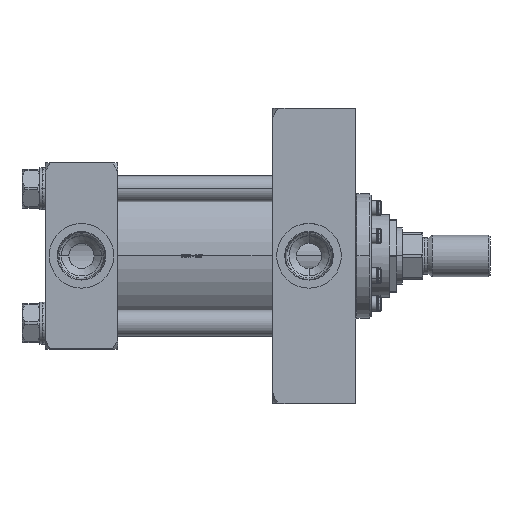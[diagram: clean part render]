
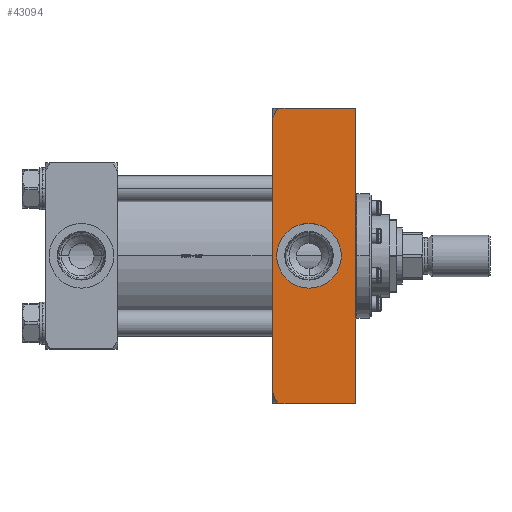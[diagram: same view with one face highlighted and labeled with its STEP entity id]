
A CAD part, top view. The second image highlights one B-rep face of the part: STEP entity #43094.
In plain terms, the highlighted planar face has unit normal (0, 0, 1).
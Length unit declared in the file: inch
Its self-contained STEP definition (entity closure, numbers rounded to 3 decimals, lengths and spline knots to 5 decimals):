
#494 = EDGE_CURVE ( 'NONE', #1169, #6322, #24293, .T. ) ;
#553 = CIRCLE ( 'NONE', #8664, 0.7815 ) ;
#1020 = CARTESIAN_POINT ( 'NONE',  ( -3.625, -3.5625, 2.25 ) ) ;
#1169 = VERTEX_POINT ( 'NONE', #26194 ) ;
#1170 = VERTEX_POINT ( 'NONE', #13774 ) ;
#2710 = CARTESIAN_POINT ( 'NONE',  ( -3.625, -3.5625, 2.25 ) ) ;
#3117 = CARTESIAN_POINT ( 'NONE',  ( -3.62025, 3.31781, 2.25 ) ) ;
#4360 = CARTESIAN_POINT ( 'NONE',  ( -3.51644, 3.54029, 2.25 ) ) ;
#6251 = DIRECTION ( 'NONE',  ( 0., 0., -1. ) ) ;
#6322 = VERTEX_POINT ( 'NONE', #69412 ) ;
#6425 = CARTESIAN_POINT ( 'NONE',  ( -3.59673, -3.39629, 2.25 ) ) ;
#7169 = ORIENTED_EDGE ( 'NONE', *, *, #46690, .T. ) ;
#8664 = AXIS2_PLACEMENT_3D ( 'NONE', #35420, #29071, #57047 ) ;
#9218 = EDGE_LOOP ( 'NONE', ( #83928, #11410, #7169, #38554, #34467, #74466 ) ) ;
#9708 = LINE ( 'NONE', #15285, #66021 ) ;
#9853 = CIRCLE ( 'NONE', #63001, 0.7815 ) ;
#9885 = CARTESIAN_POINT ( 'NONE',  ( -3.62403, 3.2902, 2.25 ) ) ;
#9937 = EDGE_CURVE ( 'NONE', #1170, #60429, #11780, .T. ) ;
#10724 = CARTESIAN_POINT ( 'NONE',  ( -3.53159, 3.51767, 2.25 ) ) ;
#11410 = ORIENTED_EDGE ( 'NONE', *, *, #494, .T. ) ;
#11780 = B_SPLINE_CURVE_WITH_KNOTS ( 'NONE', 3,
 ( #41914, #67930, #9885, #3117, #29935, #55083, #35875, #62762, #81896, #10724, #4360, #58024 ),
 .UNSPECIFIED., .F., .F.,
 ( 4, 2, 2, 2, 2, 4 ),
 ( 0.00462, 0.00565, 0.00669, 0.00876, 0.01083, 0.01291 ),
 .UNSPECIFIED. ) ;
#13774 = CARTESIAN_POINT ( 'NONE',  ( -3.625, 3.2625, 2.25 ) ) ;
#14031 = CARTESIAN_POINT ( 'NONE',  ( -3.53188, -3.51724, 2.25 ) ) ;
#14871 = CARTESIAN_POINT ( 'NONE',  ( -1.625, 3.5625, 2.25 ) ) ;
#15285 = CARTESIAN_POINT ( 'NONE',  ( -3.625, 3.5625, 2.25 ) ) ;
#15355 = EDGE_CURVE ( 'NONE', #1169, #41812, #70307, .T. ) ;
#16766 = VERTEX_POINT ( 'NONE', #39262 ) ;
#19338 = PLANE ( 'NONE',  #48777 ) ;
#20028 = CARTESIAN_POINT ( 'NONE',  ( -3.51658, -3.5401, 2.25 ) ) ;
#20991 = LINE ( 'NONE', #2710, #57387 ) ;
#22937 = DIRECTION ( 'NONE',  ( 1., 0., 0. ) ) ;
#23437 = DIRECTION ( 'NONE',  ( 0., 1., 0. ) ) ;
#24293 = LINE ( 'NONE', #77151, #49441 ) ;
#25553 = EDGE_CURVE ( 'NONE', #60429, #50294, #9708, .T. ) ;
#26194 = CARTESIAN_POINT ( 'NONE',  ( -3.50074, -3.5625, 2.25 ) ) ;
#26614 = FACE_BOUND ( 'NONE', #67972, .T. ) ;
#27277 = CARTESIAN_POINT ( 'NONE',  ( -3.50074, -3.5625, 2.25 ) ) ;
#29071 = DIRECTION ( 'NONE',  ( 0., 0., -1. ) ) ;
#29515 = ORIENTED_EDGE ( 'NONE', *, *, #79019, .T. ) ;
#29935 = CARTESIAN_POINT ( 'NONE',  ( -3.61747, 3.33134, 2.25 ) ) ;
#31364 = CARTESIAN_POINT ( 'NONE',  ( -2.75, 0., 2.25 ) ) ;
#32219 = CARTESIAN_POINT ( 'NONE',  ( -1.625, -3.5625, 2.25 ) ) ;
#32794 = CARTESIAN_POINT ( 'NONE',  ( -3.61063, -3.35735, 2.25 ) ) ;
#33371 = DIRECTION ( 'NONE',  ( 0., 1., 0. ) ) ;
#33598 = VERTEX_POINT ( 'NONE', #77688 ) ;
#33760 = DIRECTION ( 'NONE',  ( 0., 0., -1. ) ) ;
#34467 = ORIENTED_EDGE ( 'NONE', *, *, #9937, .F. ) ;
#35420 = CARTESIAN_POINT ( 'NONE',  ( -2.75, 0., 2.25 ) ) ;
#35875 = CARTESIAN_POINT ( 'NONE',  ( -3.59702, 3.3969, 2.25 ) ) ;
#37336 = VECTOR ( 'NONE', #50960, 39.37008 ) ;
#38393 = CARTESIAN_POINT ( 'NONE',  ( -3.60636, -3.37055, 2.25 ) ) ;
#38554 = ORIENTED_EDGE ( 'NONE', *, *, #25553, .F. ) ;
#39262 = CARTESIAN_POINT ( 'NONE',  ( -2.75, 0.7815, 2.25 ) ) ;
#39638 = CARTESIAN_POINT ( 'NONE',  ( -3.59136, -3.40891, 2.25 ) ) ;
#40053 = CARTESIAN_POINT ( 'NONE',  ( -3.56062, -3.47016, 2.25 ) ) ;
#41812 = VERTEX_POINT ( 'NONE', #47764 ) ;
#41914 = CARTESIAN_POINT ( 'NONE',  ( -3.625, 3.2625, 2.25 ) ) ;
#43094 = ADVANCED_FACE ( 'NONE', ( #77764, #26614 ), #19338, .F. ) ;
#44346 = DIRECTION ( 'NONE',  ( 1., 0., 0. ) ) ;
#46690 = EDGE_CURVE ( 'NONE', #6322, #50294, #83772, .T. ) ;
#47764 = CARTESIAN_POINT ( 'NONE',  ( -3.625, -3.2625, 2.25 ) ) ;
#48777 = AXIS2_PLACEMENT_3D ( 'NONE', #1020, #33760, #23437 ) ;
#49441 = VECTOR ( 'NONE', #44346, 39.37008 ) ;
#49735 = ORIENTED_EDGE ( 'NONE', *, *, #57286, .T. ) ;
#50294 = VERTEX_POINT ( 'NONE', #14871 ) ;
#50960 = DIRECTION ( 'NONE',  ( 0., 1., 0. ) ) ;
#51584 = CARTESIAN_POINT ( 'NONE',  ( -3.62115, -3.31719, 2.25 ) ) ;
#51995 = EDGE_CURVE ( 'NONE', #41812, #1170, #20991, .T. ) ;
#52413 = CARTESIAN_POINT ( 'NONE',  ( -3.625, -3.2625, 2.25 ) ) ;
#55083 = CARTESIAN_POINT ( 'NONE',  ( -3.60694, 3.37123, 2.25 ) ) ;
#57047 = DIRECTION ( 'NONE',  ( 0., 1., 0. ) ) ;
#57286 = EDGE_CURVE ( 'NONE', #16766, #33598, #9853, .T. ) ;
#57387 = VECTOR ( 'NONE', #33371, 39.37008 ) ;
#57805 = DIRECTION ( 'NONE',  ( 0., 1., 0. ) ) ;
#58024 = CARTESIAN_POINT ( 'NONE',  ( -3.50074, 3.5625, 2.25 ) ) ;
#59044 = CARTESIAN_POINT ( 'NONE',  ( -3.50074, 3.5625, 2.25 ) ) ;
#60429 = VERTEX_POINT ( 'NONE', #59044 ) ;
#62762 = CARTESIAN_POINT ( 'NONE',  ( -3.57347, 3.44706, 2.25 ) ) ;
#63001 = AXIS2_PLACEMENT_3D ( 'NONE', #31364, #6251, #57805 ) ;
#66021 = VECTOR ( 'NONE', #22937, 39.37008 ) ;
#67930 = CARTESIAN_POINT ( 'NONE',  ( -3.625, 3.27637, 2.25 ) ) ;
#67972 = EDGE_LOOP ( 'NONE', ( #49735, #29515 ) ) ;
#69412 = CARTESIAN_POINT ( 'NONE',  ( -1.625, -3.5625, 2.25 ) ) ;
#70307 = B_SPLINE_CURVE_WITH_KNOTS ( 'NONE', 3,
 ( #27277, #20028, #14031, #40053, #83952, #39638, #6425, #38393, #32794, #51584, #72452, #52413 ),
 .UNSPECIFIED., .F., .F.,
 ( 4, 2, 2, 2, 2, 4 ),
 ( 0.0094, 0.01149, 0.01358, 0.01462, 0.01566, 0.01775 ),
 .UNSPECIFIED. ) ;
#72452 = CARTESIAN_POINT ( 'NONE',  ( -3.625, -3.29006, 2.25 ) ) ;
#74466 = ORIENTED_EDGE ( 'NONE', *, *, #51995, .F. ) ;
#77151 = CARTESIAN_POINT ( 'NONE',  ( -3.625, -3.5625, 2.25 ) ) ;
#77688 = CARTESIAN_POINT ( 'NONE',  ( -2.75, -0.7815, 2.25 ) ) ;
#77764 = FACE_OUTER_BOUND ( 'NONE', #9218, .T. ) ;
#79019 = EDGE_CURVE ( 'NONE', #33598, #16766, #553, .T. ) ;
#81896 = CARTESIAN_POINT ( 'NONE',  ( -3.56009, 3.47107, 2.25 ) ) ;
#83772 = LINE ( 'NONE', #32219, #37336 ) ;
#83928 = ORIENTED_EDGE ( 'NONE', *, *, #15355, .F. ) ;
#83952 = CARTESIAN_POINT ( 'NONE',  ( -3.57394, -3.44614, 2.25 ) ) ;
